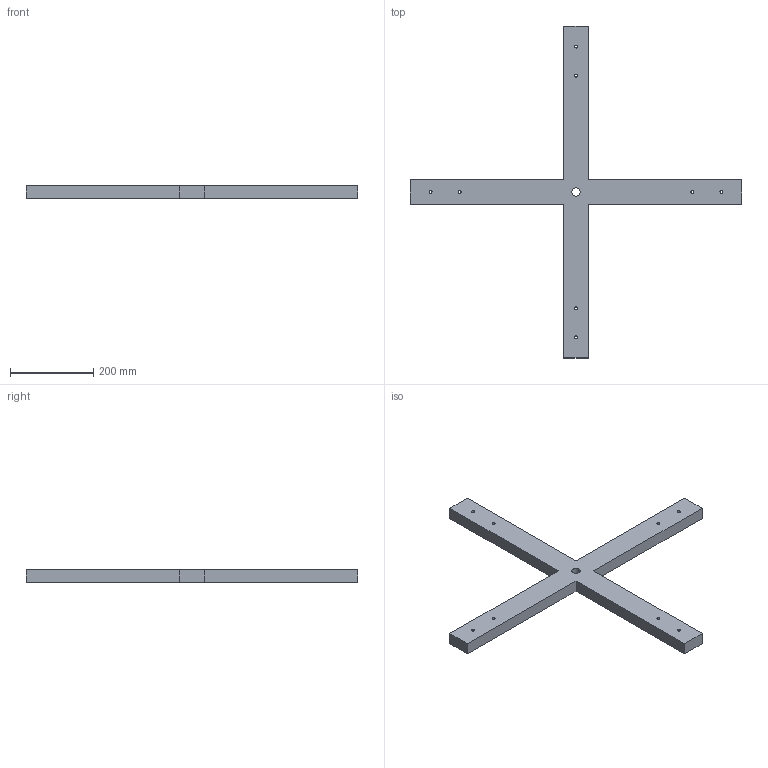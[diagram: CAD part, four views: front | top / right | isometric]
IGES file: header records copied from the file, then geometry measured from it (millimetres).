
Start section: Data from Parasolid IGES Translator 20.0.26, Copyright(c) 2006 Siemens P LM Software. All Rights Reserved.
Global section: file name: 48533.igs; native system: By Siemens PLM Incorporated; preprocessor: XPlus GENERIC/IGES 20.0.26; author: Noname; organization: Noname; date: 20210125.173647; units: millimetre
Bounding box: 798 x 798 x 30 mm (x, y, z)
Surface area: 285998.8 mm2 (no closed solid volume)
Topology: 0 solids, 0 shells, 23 faces, 126 edges, 118 vertices
Faces by surface type: extrusion 14, revolution 9
